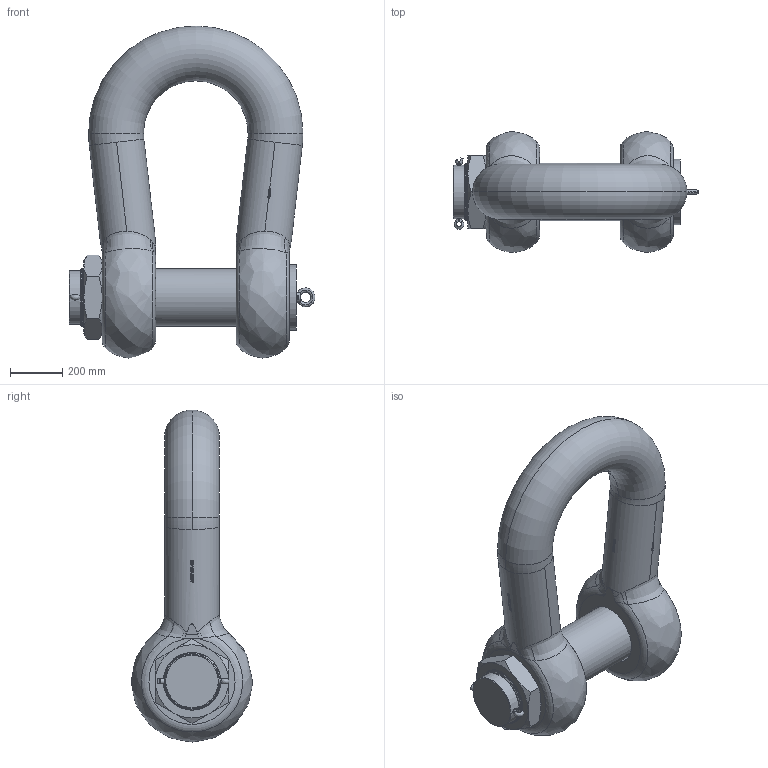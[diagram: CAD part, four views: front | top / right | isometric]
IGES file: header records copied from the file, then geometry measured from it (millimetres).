
Global section: file name: No Iges File Name specified; native system: Autodesk Inventor 2009; preprocessor: AutoDesk Inventor Iges Exporter R2009; author: Jack; date: 20091212.144019; units: millimetre
Bounding box: 941 x 464 x 1269.99 mm (x, y, z)
Volume: 140208084.4 mm3; surface area: 3293489.3 mm2
Topology: 5 solids, 5 shells, 835 faces, 2227 edges, 1461 vertices
Faces by surface type: plane 382, bspline 263, cylinder 112, revolution 36, torus 22, cone 20
Full cylindrical faces by diameter (mm): 220 x15
